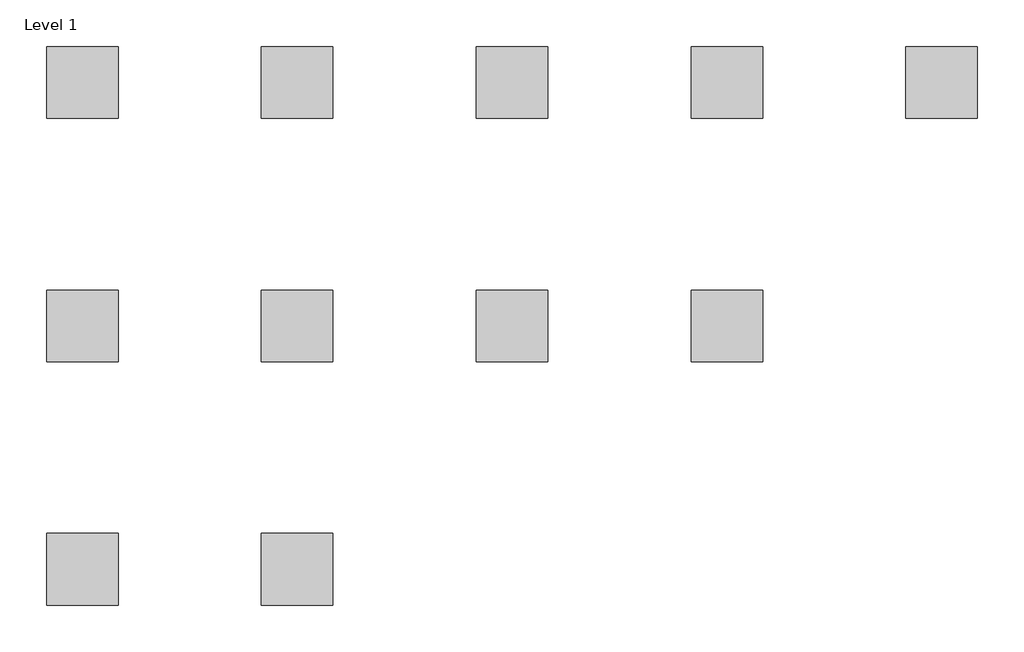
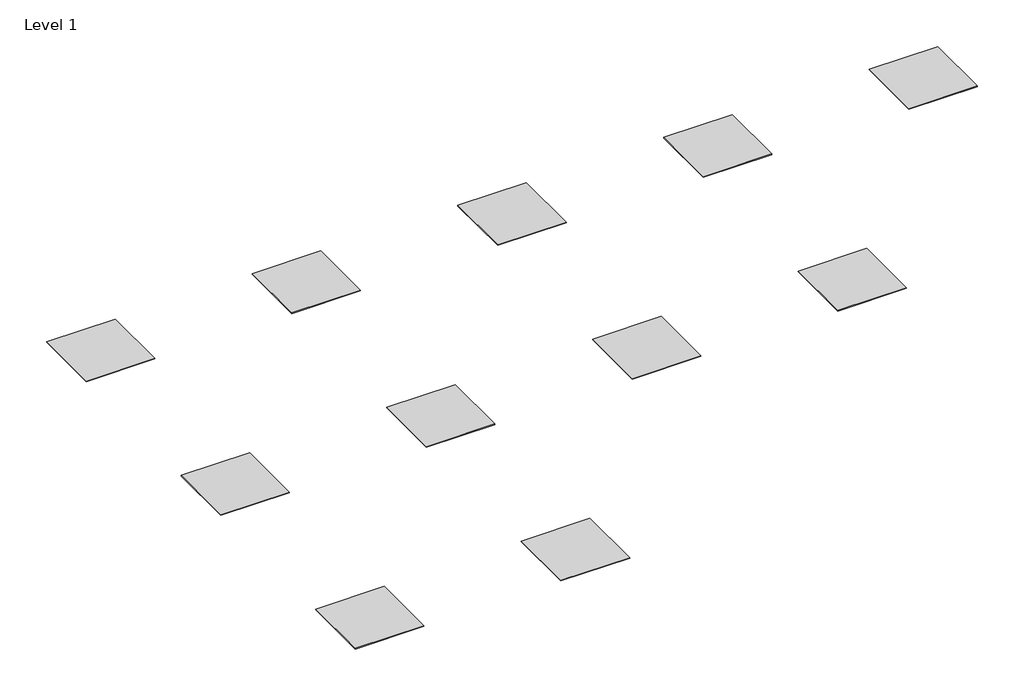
# One storey: 11 proxies.
"""IFC4 building model written with IfcOpenShell, lengths in millimetres."""

from ifc_helpers import new_model, si_unit, origin, place, context, project, spatial, transform, mapped, element, save
from components import generic_models_feed3d8b

model = new_model("IFC4")

# Units and contexts
model_context = context("Model", 3, world=origin())
ifc_project = project(units=[si_unit("LENGTHUNIT", "METRE", prefix="MILLI")], contexts=[model_context])

# Site, building, storey
site = spatial("IfcSite", under=ifc_project)
building = spatial("IfcBuilding", under=site)
storey = spatial("IfcBuildingStorey", under=building, Name="Level 1", Elevation=0.0)

# Proxies
placement = place(None, origin())
generic_models_shape = generic_models_feed3d8b(model_context)
element("IfcBuildingElementProxy", 1, Name="Placeholder : Placeholder", ObjectType="Placeholder : Placeholder", at=placement, inside=storey, context=model_context, shape_type="MappedRepresentation", body=[
    mapped(generic_models_shape, transform((-9572.4474797, 4962.3553628, 0.0), x_axis=(1.0, 0.0, 0.0), y_axis=(0.0, 1.0, 0.0), z_axis=(0.0, 0.0, 1.0))),
])
element("IfcBuildingElementProxy", 2, Name="Placeholder : Placeholder", ObjectType="Placeholder : Placeholder", at=placement, inside=storey, context=model_context, shape_type="MappedRepresentation", body=[
    mapped(generic_models_shape, transform((-9572.4474797, 4282.3553628, 0.0), x_axis=(1.0, 0.0, 0.0), y_axis=(0.0, 1.0, 0.0), z_axis=(0.0, 0.0, 1.0))),
])
element("IfcBuildingElementProxy", 3, Name="Placeholder : Placeholder", ObjectType="Placeholder : Placeholder", at=placement, inside=storey, context=model_context, shape_type="MappedRepresentation", body=[
    mapped(generic_models_shape, transform((-9572.4474797, 4622.3553628, 0.0), x_axis=(1.0, 0.0, 0.0), y_axis=(0.0, 1.0, 0.0), z_axis=(0.0, 0.0, 1.0))),
])
element("IfcBuildingElementProxy", 4, Name="Placeholder : Placeholder", ObjectType="Placeholder : Placeholder", at=placement, inside=storey, context=model_context, shape_type="MappedRepresentation", body=[
    mapped(generic_models_shape, transform((-9272.4474797, 4962.3553628, 0.0), x_axis=(1.0, 0.0, 0.0), y_axis=(0.0, 1.0, 0.0), z_axis=(0.0, 0.0, 1.0))),
])
element("IfcBuildingElementProxy", 5, Name="Placeholder1 : Placeholder 2", ObjectType="Placeholder1 : Placeholder 2", at=placement, inside=storey, context=model_context, shape_type="MappedRepresentation", body=[
    mapped(generic_models_shape, transform((-9272.4474797, 4282.3553628, 0.0), x_axis=(1.0, 0.0, 0.0), y_axis=(0.0, 1.0, 0.0), z_axis=(0.0, 0.0, 1.0))),
])
element("IfcBuildingElementProxy", 6, Name="Placeholder1 : Placeholder 2", ObjectType="Placeholder1 : Placeholder 2", at=placement, inside=storey, context=model_context, shape_type="MappedRepresentation", body=[
    mapped(generic_models_shape, transform((-9272.4474797, 4622.3553628, 0.0), x_axis=(1.0, 0.0, 0.0), y_axis=(0.0, 1.0, 0.0), z_axis=(0.0, 0.0, 1.0))),
])
element("IfcBuildingElementProxy", 7, Name="Placeholder1 : Placeholder 2", ObjectType="Placeholder1 : Placeholder 2", at=placement, inside=storey, context=model_context, shape_type="MappedRepresentation", body=[
    mapped(generic_models_shape, transform((-8972.4474797, 4962.3553628, 0.0), x_axis=(1.0, 0.0, 0.0), y_axis=(0.0, 1.0, 0.0), z_axis=(0.0, 0.0, 1.0))),
])
element("IfcBuildingElementProxy", 8, Name="Placeholder1 : Placeholder 2", ObjectType="Placeholder1 : Placeholder 2", at=placement, inside=storey, context=model_context, shape_type="MappedRepresentation", body=[
    mapped(generic_models_shape, transform((-8972.4474797, 4622.3553628, 0.0), x_axis=(1.0, 0.0, 0.0), y_axis=(0.0, 1.0, 0.0), z_axis=(0.0, 0.0, 1.0))),
])
element("IfcBuildingElementProxy", 9, Name="Placeholder1 : Placeholder 2", ObjectType="Placeholder1 : Placeholder 2", at=placement, inside=storey, context=model_context, shape_type="MappedRepresentation", body=[
    mapped(generic_models_shape, transform((-8672.4474797, 4962.3553628, 0.0), x_axis=(1.0, 0.0, 0.0), y_axis=(0.0, 1.0, 0.0), z_axis=(0.0, 0.0, 1.0))),
])
element("IfcBuildingElementProxy", 10, Name="Placeholder1 : Placeholder 2", ObjectType="Placeholder1 : Placeholder 2", at=placement, inside=storey, context=model_context, shape_type="MappedRepresentation", body=[
    mapped(generic_models_shape, transform((-8672.4474797, 4622.3553628, 0.0), x_axis=(1.0, 0.0, 0.0), y_axis=(0.0, 1.0, 0.0), z_axis=(0.0, 0.0, 1.0))),
])
element("IfcBuildingElementProxy", 11, Name="Placeholder1 : Placeholder 2", ObjectType="Placeholder1 : Placeholder 2", at=placement, inside=storey, context=model_context, shape_type="MappedRepresentation", body=[
    mapped(generic_models_shape, transform((-8372.4474797, 4962.3553628, 0.0), x_axis=(1.0, 0.0, 0.0), y_axis=(0.0, 1.0, 0.0), z_axis=(0.0, 0.0, 1.0))),
])

save(model, "model.ifc")
